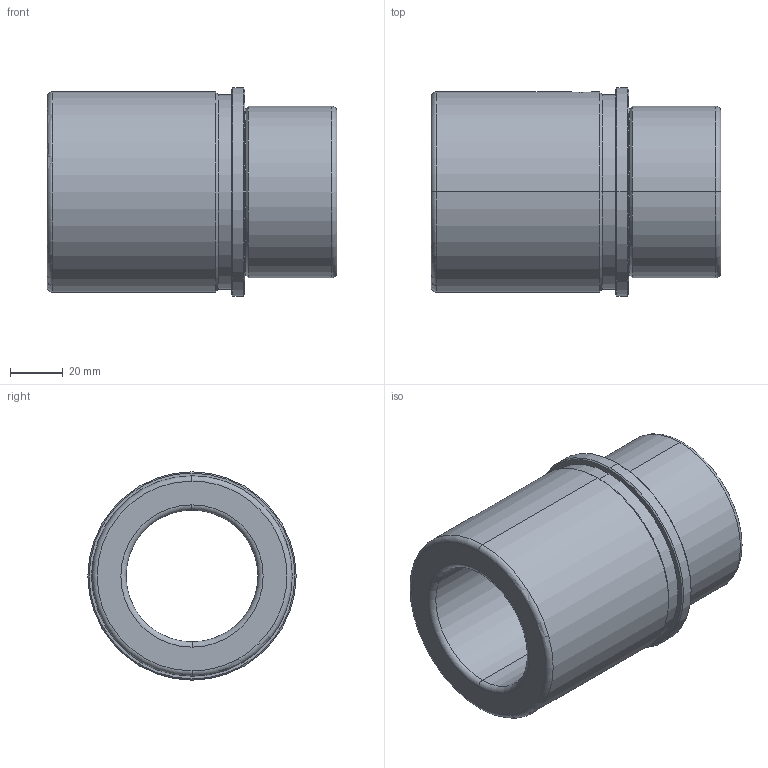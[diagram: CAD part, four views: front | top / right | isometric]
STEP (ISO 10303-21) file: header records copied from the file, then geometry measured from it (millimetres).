
FILE_DESCRIPTION(('CATIA V5 STEP Exchange'),'2;1');
FILE_NAME('C:\Users\Utente\Desktop\IO LAVORO\3D X SITO CF\X SITO\FAMO\FAMO-SF1-E50 x 110.stp','2021-01-06T17:00:52+00:00',('none'),('none'),'CATIA Version 5 Release 20 GA (IN-10)','CATIA V5 STEP AP203','none');
FILE_SCHEMA(('CONFIG_CONTROL_DESIGN'));
Length unit declared in the file: millimetre
Products named in the file (1): FAMO-SF1-E50 x 110
Bounding box: 110 x 79 x 79 mm (x, y, z)
Volume: 238915.6 mm3; surface area: 48555.8 mm2
Topology: 1 solids, 1 shells, 37 faces, 126 edges, 94 vertices
Faces by surface type: cylinder 14, cone 10, torus 8, plane 5
Entity records: 1675 total; most frequent: CARTESIAN_POINT 545, ORIENTED_EDGE 252, DIRECTION 179, EDGE_CURVE 126, AXIS2_PLACEMENT_3D 119, VERTEX_POINT 94, CIRCLE 81, EDGE_LOOP 44
